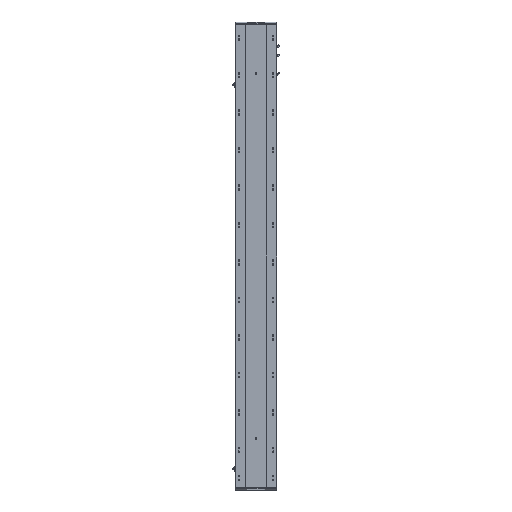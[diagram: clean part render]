
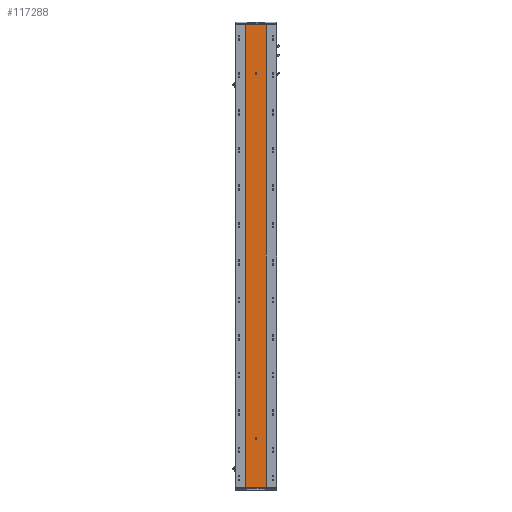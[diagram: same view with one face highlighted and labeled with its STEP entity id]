
A CAD part, front view. The second image highlights one B-rep face of the part: STEP entity #117288.
In plain terms, the highlighted planar face has unit normal (0, -1, 0).
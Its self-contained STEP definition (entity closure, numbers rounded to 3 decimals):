
#3197 = LINE ( 'NONE', #305201, #146708 ) ;
#22581 = VECTOR ( 'NONE', #42857, 1000. ) ;
#27169 = VERTEX_POINT ( 'NONE', #163984 ) ;
#27533 = AXIS2_PLACEMENT_3D ( 'NONE', #338568, #164214, #229086 ) ;
#28499 = CARTESIAN_POINT ( 'NONE',  ( -4., 0., 261. ) ) ;
#42857 = DIRECTION ( 'NONE',  ( 1., 0., 0. ) ) ;
#47014 = EDGE_CURVE ( 'NONE', #78971, #27169, #53944, .T. ) ;
#53944 = CIRCLE ( 'NONE', #397193, 4. ) ;
#54329 = CARTESIAN_POINT ( 'NONE',  ( 0., 0., 259. ) ) ;
#61323 = DIRECTION ( 'NONE',  ( 0., 0., 1. ) ) ;
#72396 = CARTESIAN_POINT ( 'NONE',  ( 4., 0., 261. ) ) ;
#75916 = AXIS2_PLACEMENT_3D ( 'NONE', #372209, #228757, #125399 ) ;
#78971 = VERTEX_POINT ( 'NONE', #296283 ) ;
#84706 = LINE ( 'NONE', #349589, #112591 ) ;
#94733 = EDGE_CURVE ( 'NONE', #174225, #191091, #397256, .T. ) ;
#100256 = ORIENTED_EDGE ( 'NONE', *, *, #47014, .F. ) ;
#108247 = CARTESIAN_POINT ( 'NONE',  ( 4., 0., 259. ) ) ;
#110159 = EDGE_CURVE ( 'NONE', #202162, #142382, #3197, .T. ) ;
#112591 = VECTOR ( 'NONE', #352619, 1000. ) ;
#117288 = ADVANCED_FACE ( 'NONE', ( #156947, #328234, #444209 ), #406477, .F. ) ;
#125399 = DIRECTION ( 'NONE',  ( 0., 0., 1. ) ) ;
#142382 = VERTEX_POINT ( 'NONE', #28499 ) ;
#146647 = CARTESIAN_POINT ( 'NONE',  ( -55., 0., 2470. ) ) ;
#146708 = VECTOR ( 'NONE', #61323, 1000. ) ;
#147389 = ORIENTED_EDGE ( 'NONE', *, *, #444003, .T. ) ;
#150654 = DIRECTION ( 'NONE',  ( 0., 0., -1. ) ) ;
#156947 = FACE_BOUND ( 'NONE', #211126, .T. ) ;
#161405 = VECTOR ( 'NONE', #218711, 1000. ) ;
#162262 = ORIENTED_EDGE ( 'NONE', *, *, #110159, .T. ) ;
#163165 = AXIS2_PLACEMENT_3D ( 'NONE', #386434, #204478, #241489 ) ;
#163984 = CARTESIAN_POINT ( 'NONE',  ( 0., 0., 2214. ) ) ;
#164214 = DIRECTION ( 'NONE',  ( 0., 1., 0. ) ) ;
#172697 = CIRCLE ( 'NONE', #163165, 4. ) ;
#173592 = CARTESIAN_POINT ( 'NONE',  ( -55., 0., 0. ) ) ;
#174225 = VERTEX_POINT ( 'NONE', #72396 ) ;
#182087 = VECTOR ( 'NONE', #150654, 1000. ) ;
#187970 = VERTEX_POINT ( 'NONE', #146647 ) ;
#191091 = VERTEX_POINT ( 'NONE', #108247 ) ;
#192402 = ORIENTED_EDGE ( 'NONE', *, *, #197140, .T. ) ;
#197140 = EDGE_CURVE ( 'NONE', #142382, #174225, #343133, .T. ) ;
#202162 = VERTEX_POINT ( 'NONE', #320572 ) ;
#204478 = DIRECTION ( 'NONE',  ( 0., -1., 0. ) ) ;
#211126 = EDGE_LOOP ( 'NONE', ( #100256, #441073 ) ) ;
#218711 = DIRECTION ( 'NONE',  ( 0., 0., -1. ) ) ;
#225325 = VECTOR ( 'NONE', #325927, 1000. ) ;
#228757 = DIRECTION ( 'NONE',  ( 0., 1., 0. ) ) ;
#229086 = DIRECTION ( 'NONE',  ( 0., 0., 1. ) ) ;
#241489 = DIRECTION ( 'NONE',  ( 0., 0., -1. ) ) ;
#267535 = EDGE_CURVE ( 'NONE', #187970, #355704, #84706, .T. ) ;
#282126 = DIRECTION ( 'NONE',  ( 0., -1., 0. ) ) ;
#287399 = CARTESIAN_POINT ( 'NONE',  ( 55., 0., 2470. ) ) ;
#296283 = CARTESIAN_POINT ( 'NONE',  ( 0., 0., 2206. ) ) ;
#299841 = EDGE_CURVE ( 'NONE', #27169, #78971, #172697, .T. ) ;
#300372 = EDGE_LOOP ( 'NONE', ( #147389, #452279, #431395, #434034 ) ) ;
#300460 = AXIS2_PLACEMENT_3D ( 'NONE', #54329, #404635, #407645 ) ;
#302896 = CIRCLE ( 'NONE', #300460, 4. ) ;
#305201 = CARTESIAN_POINT ( 'NONE',  ( -4., 0., 2470. ) ) ;
#317364 = VERTEX_POINT ( 'NONE', #173592 ) ;
#319686 = CARTESIAN_POINT ( 'NONE',  ( 55., 0., 0. ) ) ;
#320572 = CARTESIAN_POINT ( 'NONE',  ( -4., 0., 259. ) ) ;
#323651 = CARTESIAN_POINT ( 'NONE',  ( -55., 0., 2470. ) ) ;
#325927 = DIRECTION ( 'NONE',  ( 0., 0., -1. ) ) ;
#328234 = FACE_BOUND ( 'NONE', #412729, .T. ) ;
#331681 = LINE ( 'NONE', #362243, #22581 ) ;
#336195 = EDGE_CURVE ( 'NONE', #355704, #378440, #413001, .T. ) ;
#338568 = CARTESIAN_POINT ( 'NONE',  ( 0., 0., 2470. ) ) ;
#343133 = CIRCLE ( 'NONE', #75916, 4. ) ;
#349589 = CARTESIAN_POINT ( 'NONE',  ( 0., 0., 2470. ) ) ;
#352619 = DIRECTION ( 'NONE',  ( 1., 0., 0. ) ) ;
#353094 = DIRECTION ( 'NONE',  ( 0., 0., -1. ) ) ;
#353375 = CARTESIAN_POINT ( 'NONE',  ( 55., 0., 2470. ) ) ;
#355704 = VERTEX_POINT ( 'NONE', #353375 ) ;
#357602 = ORIENTED_EDGE ( 'NONE', *, *, #94733, .T. ) ;
#360437 = CARTESIAN_POINT ( 'NONE',  ( 4., 0., 2470. ) ) ;
#362243 = CARTESIAN_POINT ( 'NONE',  ( 0., 0., 0. ) ) ;
#371439 = ORIENTED_EDGE ( 'NONE', *, *, #396046, .T. ) ;
#372209 = CARTESIAN_POINT ( 'NONE',  ( 0., 0., 261. ) ) ;
#378440 = VERTEX_POINT ( 'NONE', #319686 ) ;
#386434 = CARTESIAN_POINT ( 'NONE',  ( 0., 0., 2210. ) ) ;
#396046 = EDGE_CURVE ( 'NONE', #191091, #202162, #302896, .T. ) ;
#397193 = AXIS2_PLACEMENT_3D ( 'NONE', #425569, #282126, #353094 ) ;
#397256 = LINE ( 'NONE', #360437, #182087 ) ;
#404635 = DIRECTION ( 'NONE',  ( 0., 1., 0. ) ) ;
#406477 = PLANE ( 'NONE',  #27533 ) ;
#407645 = DIRECTION ( 'NONE',  ( 0., 0., 1. ) ) ;
#412729 = EDGE_LOOP ( 'NONE', ( #162262, #192402, #357602, #371439 ) ) ;
#413001 = LINE ( 'NONE', #287399, #225325 ) ;
#425569 = CARTESIAN_POINT ( 'NONE',  ( 0., 0., 2210. ) ) ;
#430399 = EDGE_CURVE ( 'NONE', #187970, #317364, #437652, .T. ) ;
#431395 = ORIENTED_EDGE ( 'NONE', *, *, #267535, .F. ) ;
#434034 = ORIENTED_EDGE ( 'NONE', *, *, #430399, .T. ) ;
#437652 = LINE ( 'NONE', #323651, #161405 ) ;
#441073 = ORIENTED_EDGE ( 'NONE', *, *, #299841, .F. ) ;
#444003 = EDGE_CURVE ( 'NONE', #317364, #378440, #331681, .T. ) ;
#444209 = FACE_OUTER_BOUND ( 'NONE', #300372, .T. ) ;
#452279 = ORIENTED_EDGE ( 'NONE', *, *, #336195, .F. ) ;
